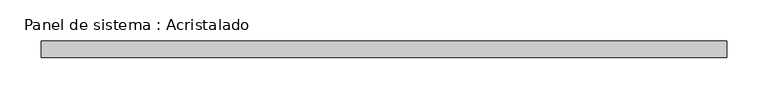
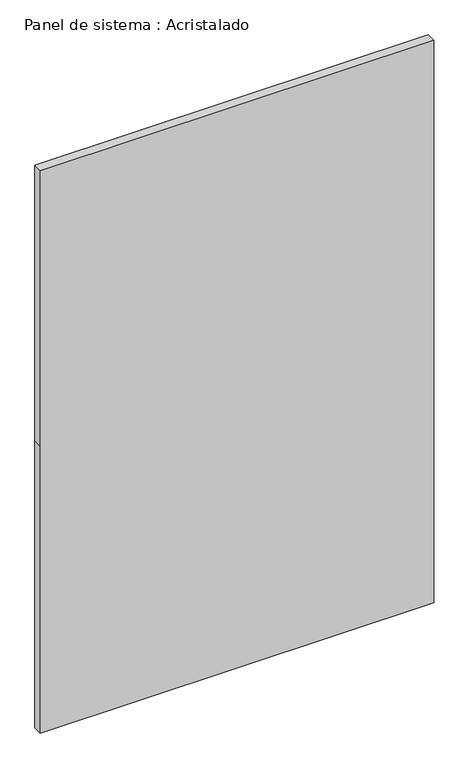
"""IFC4 building model written with IfcOpenShell, lengths in millimetres: plate geometry, Panel de sistema : Acristalado."""

from ifc_helpers import new_model, si_unit, frame, origin, place, context, project, spatial, polyline, outline, extrude, source, transform, mapped, element, save


def panel_de_sistema_acristalado_63b311c3(model_context):
    return source(origin(), model_context, "Body", "SweptSolid", [
        extrude(outline(polyline([(0.0, -415.0), (0.0, 415.0), (640.0, 415.0), (1255.0, 415.0), (1255.0, -415.0), (640.0, -415.0), (0.0, -415.0)])), frame((0.0, -10.0, 0.0), z_axis=(0.0, 1.0, 0.0), x_axis=(0.0, 0.0, 1.0)), (0.0, 0.0, 1.0), 20.0),
    ])


if __name__ == "__main__":
    model = new_model("IFC4")
    model_context = context("Model", 3, world=origin())
    ifc_project = project(units=[si_unit("LENGTHUNIT", "METRE", prefix="MILLI")], contexts=[model_context])
    site = spatial("IfcSite", under=ifc_project)
    building = spatial("IfcBuilding", under=site)
    placement = place(None, origin())
    panel_de_sistema_acristalado_shape = panel_de_sistema_acristalado_63b311c3(model_context)
    element("IfcPlate", 1, ObjectType="Panel de sistema : Acristalado", at=placement, inside=building, context=model_context, shape_type="MappedRepresentation", body=[
        mapped(panel_de_sistema_acristalado_shape, transform((0.0, 0.0, 0.0), x_axis=(1.0, 0.0, 0.0), y_axis=(0.0, 1.0, 0.0), z_axis=(0.0, 0.0, 1.0))),
    ])
    save(model, "model.ifc")
